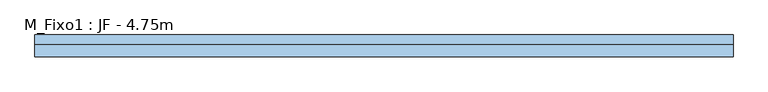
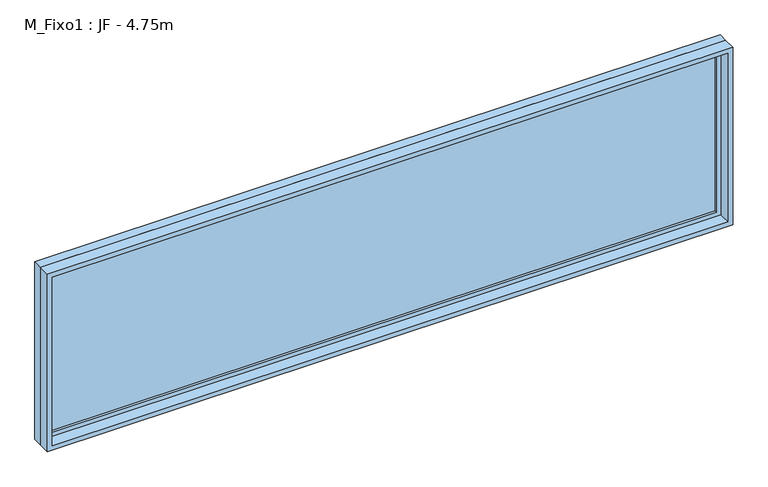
"""IFC4 building model written with IfcOpenShell, lengths in millimetres: window geometry, M_Fixo1 : JF - 4.75m."""

from ifc_helpers import new_model, si_unit, frame, origin, place, context, project, spatial, polyline, outline, extrude, source, transform, mapped, element, save


def m_fixo1_jf_4_75m_a83b1cd6(model_context):
    return source(origin(), model_context, "Body", "SweptSolid", [
        extrude(outline(polyline([(-2312.0, 53.0), (2312.0, 53.0), (2312.0, 41.0), (-2312.0, 41.0), (-2312.0, 53.0)])), frame((0.0, 0.0, 978.0), z_axis=(0.0, 0.0, 1.0), x_axis=(1.0, 0.0, 0.0)), (0.0, 0.0, 1.0), 1174.0),
        extrude(outline(polyline([(2196.0, -2356.0), (934.0, -2356.0), (934.0, 2356.0), (2196.0, 2356.0), (2196.0, -2356.0)]), holes=[polyline([(2152.0, -2312.0), (2152.0, 2312.0), (978.0, 2312.0), (978.0, -2312.0), (2152.0, -2312.0)])]), frame((0.0, 25.0, 0.0), z_axis=(0.0, 1.0, 0.0), x_axis=(0.0, 0.0, 1.0)), (0.0, 0.0, 1.0), 44.0),
        extrude(outline(polyline([(2215.0, -2375.0), (915.0, -2375.0), (915.0, 2375.0), (2215.0, 2375.0), (2215.0, -2375.0)]), holes=[polyline([(2196.0, -2356.0), (2196.0, 2356.0), (934.0, 2356.0), (934.0, -2356.0), (2196.0, -2356.0)])]), frame((0.0, 25.0, 0.0), z_axis=(0.0, 1.0, 0.0), x_axis=(0.0, 0.0, 1.0)), (0.0, 0.0, 1.0), 63.0),
        extrude(outline(polyline([(2215.0, -2375.0), (915.0, -2375.0), (915.0, 2375.0), (2215.0, 2375.0), (2215.0, -2375.0)]), holes=[polyline([(2183.0, -2343.0), (2183.0, 2343.0), (947.0, 2343.0), (947.0, -2343.0), (2183.0, -2343.0)])]), frame((0.0, -62.0, 0.0), z_axis=(0.0, 1.0, 0.0), x_axis=(0.0, 0.0, 1.0)), (0.0, 0.0, 1.0), 87.0),
    ])


if __name__ == "__main__":
    model = new_model("IFC4")
    model_context = context("Model", 3, world=origin())
    ifc_project = project(units=[si_unit("LENGTHUNIT", "METRE", prefix="MILLI")], contexts=[model_context])
    site = spatial("IfcSite", under=ifc_project)
    building = spatial("IfcBuilding", under=site)
    placement = place(None, origin())
    m_fixo1_jf_4_75m_shape = m_fixo1_jf_4_75m_a83b1cd6(model_context)
    element("IfcWindow", 1, ObjectType="M_Fixo1 : JF - 4.75m", at=placement, inside=building, context=model_context, shape_type="MappedRepresentation", body=[
        mapped(m_fixo1_jf_4_75m_shape, transform((0.0, 0.0, 0.0), x_axis=(1.0, 0.0, 0.0), y_axis=(0.0, 1.0, 0.0), z_axis=(0.0, 0.0, 1.0))),
    ])
    save(model, "model.ifc")
